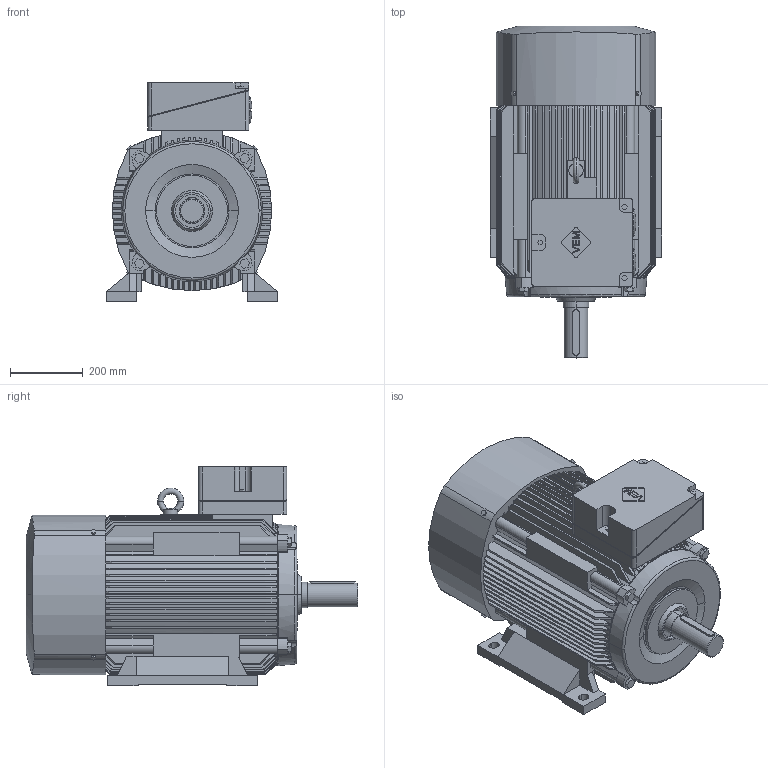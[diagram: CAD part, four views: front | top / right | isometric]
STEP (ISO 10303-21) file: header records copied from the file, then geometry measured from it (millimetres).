
FILE_DESCRIPTION(('STEP AP214'),'1');
FILE_NAME('cctmp_923354CC-23B8-42A8-B536-8046106F170B_2026_02_06_10_29_22_0975..stp','2026-02-06T09:29:23',('VEM motors GmbH'),('CADClick - www.CADClick.com'),'Spatial InterOp 3D postprocessed',' ','unknown authorization');
FILE_SCHEMA(('AUTOMOTIVE_DESIGN'));
Length unit declared in the file: millimetre
Products named in the file (1): 2026_02_06_10_29_22_0975
Bounding box: 471 x 912.5 x 604 mm (x, y, z)
Volume: 116111861 mm3; surface area: 3353920 mm2
Topology: 1 solids, 2 shells, 742 faces, 2105 edges, 1394 vertices
Faces by surface type: plane 427, cylinder 169, cone 132, torus 10, bspline 4
Entity records: 30171 total; most frequent: CARTESIAN_POINT 9204, ORIENTED_EDGE 4210, DIRECTION 3646, EDGE_CURVE 2105, VERTEX_POINT 1394, LINE 1230, VECTOR 1230, AXIS2_PLACEMENT_3D 1208
